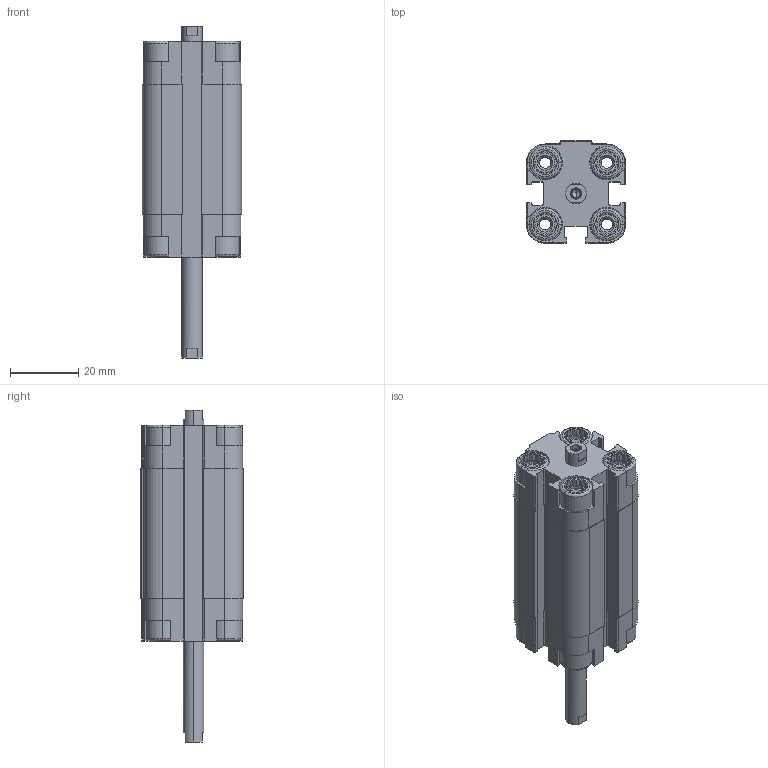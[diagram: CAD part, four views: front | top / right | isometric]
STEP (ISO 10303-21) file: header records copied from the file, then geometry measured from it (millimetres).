
FILE_DESCRIPTION (( 'STEP AP203' ), '1' );
FILE_NAME ('CDVU12-25F-P.STEP', '2020-07-24T18:01:35', ( '' ), ( '' ), 'SwSTEP 2.0', 'SolidWorks 2019', '' );
FILE_SCHEMA (( 'CONFIG_CONTROL_DESIGN' ));
Length unit declared in the file: millimetre
Products named in the file (1): CDVU12-25F-P
Bounding box: 29 x 30 x 97 mm (x, y, z)
Volume: 38508.3 mm3; surface area: 20333.2 mm2
Topology: 2 solids, 2 shells, 566 faces, 1508 edges, 980 vertices
Faces by surface type: plane 338, cylinder 164, cone 48, torus 16
Entity records: 17779 total; most frequent: CARTESIAN_POINT 3623, ORIENTED_EDGE 3000, DIRECTION 2850, EDGE_CURVE 1500, VERTEX_POINT 980, AXIS2_PLACEMENT_3D 975, LINE 900, VECTOR 900
